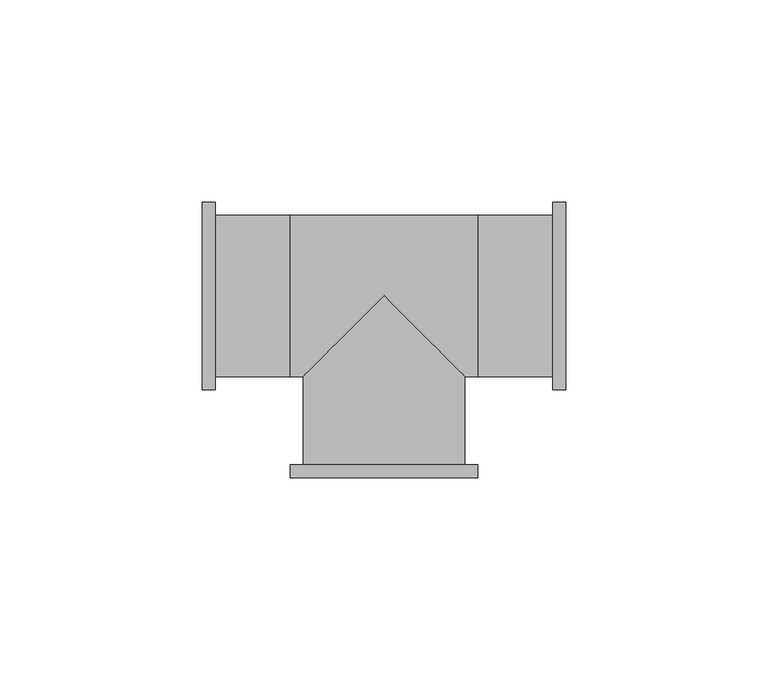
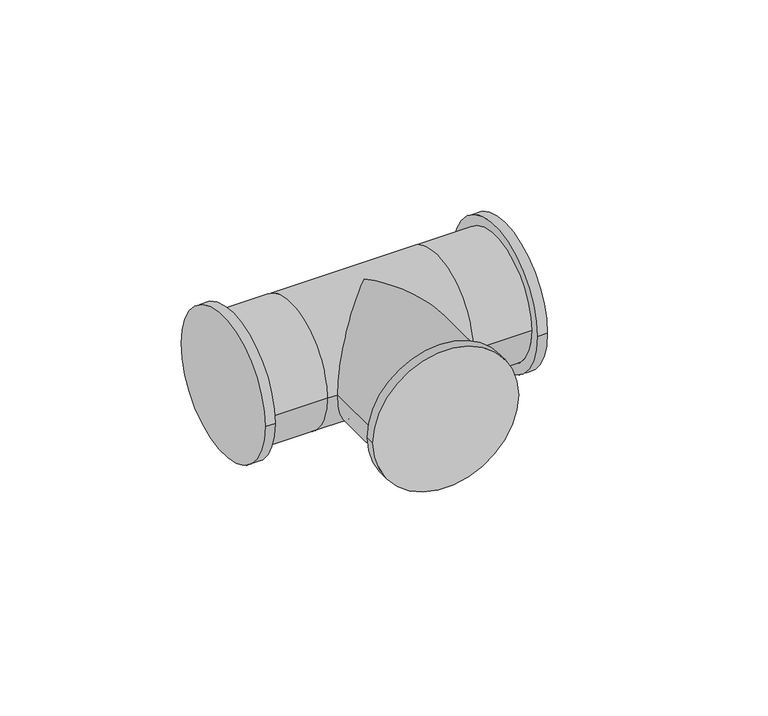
"""IFC4 building model written with IfcOpenShell, lengths in millimetres: pipe fitting geometry, ADSK_ДетальЧугуннаяРезьбовая_Тройник_ГОСТ8948-9-75 : Неоцинкованные."""

from ifc_helpers import new_model, si_unit, frame, origin, place, context, project, spatial, circle_curve, ellipse_curve, source, transform, mapped, element, save
from ifc_brep_helpers import plane_surface, cylinder_surface, advanced_brep


def pipe_fitting_9bba8be9(model_context):
    return source(origin(), model_context, "Body", "AdvancedBrep", [
        advanced_brep(
        [(-20.0, -20.0, 0.0), (-20.0, -41.8, 0.0), (20.0, -41.8, 0.0), (20.0, -20.0, 0.0), (0.0, 0.0, 20.0), (0.0, 0.0, -20.0), (23.2, 20.0, 0.0), (-23.2, 20.0, 0.0), (-23.2, -20.0, 0.0), (23.2, -20.0, 0.0), (-23.2, -41.8, 0.0), (23.2, -41.8, 0.0), (-23.2, -45.0, 0.0), (23.2, -45.0, 0.0), (-41.8, 20.0, 0.0), (-41.8, -20.0, 0.0), (41.8, 20.0, 0.0), (41.8, -20.0, 0.0), (-45.0, -23.2, 0.0), (-45.0, 23.2, 0.0), (-41.8, -23.2, 0.0), (-41.8, 23.2, 0.0), (41.8, -23.2, 0.0), (41.8, 23.2, 0.0), (45.0, -23.2, 0.0), (45.0, 23.2, 0.0)],
        [
            (0, 1),
            (1, 2, circle_curve(frame((0.0, -41.8, 0.0), z_axis=(0.0, 1.0, 0.0), x_axis=(1.0, 0.0, 0.0)), 20.0)),
            (2, 3),
            (3, 4, ellipse_curve(frame((0.0, 0.0, 0.0), z_axis=(-0.7071067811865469, -0.707106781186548, 0.0), x_axis=(-0.7071067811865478, 0.707106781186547, 0.0)), 28.2842712, 20.0)),
            (4, 0, ellipse_curve(frame((0.0, 0.0, 0.0), z_axis=(0.707106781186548, -0.7071067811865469, 0.0), x_axis=(0.7071067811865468, 0.7071067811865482, 0.0)), 28.2842712, 20.0)),
            (0, 5, ellipse_curve(frame((0.0, 0.0, 0.0), z_axis=(0.707106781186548, -0.7071067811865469, 0.0), x_axis=(0.7071067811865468, 0.7071067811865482, 0.0)), 28.2842712, 20.0)),
            (5, 3, ellipse_curve(frame((0.0, 0.0, 0.0), z_axis=(-0.7071067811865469, -0.707106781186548, 0.0), x_axis=(-0.7071067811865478, 0.707106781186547, 0.0)), 28.2842712, 20.0)),
            (2, 1, circle_curve(frame((0.0, -41.8, 0.0), z_axis=(0.0, 1.0, 0.0), x_axis=(1.0, 0.0, 0.0)), 20.0)),
            (6, 7),
            (7, 8, circle_curve(frame((-23.2, 0.0, 0.0), z_axis=(1.0, 0.0, 0.0), x_axis=(0.0, 1.0, 0.0)), 20.0)),
            (8, 0),
            (3, 9),
            (9, 6, circle_curve(frame((23.2, 0.0, 0.0), z_axis=(-1.0, 0.0, 0.0), x_axis=(0.0, 1.0, 0.0)), 20.0)),
            (6, 9, circle_curve(frame((23.2, 0.0, 0.0), z_axis=(-1.0, 0.0, 0.0), x_axis=(0.0, 1.0, 0.0)), 20.0)),
            (8, 7, circle_curve(frame((-23.2, 0.0, 0.0), z_axis=(1.0, 0.0, 0.0), x_axis=(0.0, 1.0, 0.0)), 20.0)),
            (10, 11, circle_curve(frame((0.0, -41.8, 0.0), z_axis=(0.0, 1.0, 0.0), x_axis=(1.0, 0.0, 0.0)), 23.2)),
            (11, 10, circle_curve(frame((0.0, -41.8, 0.0), z_axis=(0.0, 1.0, 0.0), x_axis=(1.0, 0.0, 0.0)), 23.2)),
            (12, 13, circle_curve(frame((0.0, -45.0, 0.0), z_axis=(0.0, -1.0, 0.0), x_axis=(1.0, 0.0, 0.0)), 23.2)),
            (13, 12, circle_curve(frame((0.0, -45.0, 0.0), z_axis=(0.0, -1.0, 0.0), x_axis=(1.0, 0.0, 0.0)), 23.2)),
            (10, 12),
            (13, 11),
            (14, 7),
            (8, 15),
            (15, 14, circle_curve(frame((-41.8, 0.0, 0.0), z_axis=(1.0, 0.0, 0.0), x_axis=(0.0, 1.0, 0.0)), 20.0)),
            (14, 15, circle_curve(frame((-41.8, 0.0, 0.0), z_axis=(1.0, 0.0, 0.0), x_axis=(0.0, 1.0, 0.0)), 20.0)),
            (6, 16),
            (16, 17, circle_curve(frame((41.8, 0.0, 0.0), z_axis=(-1.0, 0.0, 0.0), x_axis=(0.0, 1.0, 0.0)), 20.0)),
            (17, 9),
            (17, 16, circle_curve(frame((41.8, 0.0, 0.0), z_axis=(-1.0, 0.0, 0.0), x_axis=(0.0, 1.0, 0.0)), 20.0)),
            (18, 19, circle_curve(frame((-45.0, 0.0, 0.0), z_axis=(-1.0, 0.0, 0.0), x_axis=(0.0, 1.0, 0.0)), 23.2)),
            (19, 18, circle_curve(frame((-45.0, 0.0, 0.0), z_axis=(-1.0, 0.0, 0.0), x_axis=(0.0, 1.0, 0.0)), 23.2)),
            (20, 21, circle_curve(frame((-41.8, 0.0, 0.0), z_axis=(1.0, 0.0, 0.0), x_axis=(0.0, 1.0, 0.0)), 23.2)),
            (21, 20, circle_curve(frame((-41.8, 0.0, 0.0), z_axis=(1.0, 0.0, 0.0), x_axis=(0.0, 1.0, 0.0)), 23.2)),
            (18, 20),
            (21, 19),
            (22, 23, circle_curve(frame((41.8, 0.0, 0.0), z_axis=(-1.0, 0.0, 0.0), x_axis=(0.0, 1.0, 0.0)), 23.2)),
            (23, 22, circle_curve(frame((41.8, 0.0, 0.0), z_axis=(-1.0, 0.0, 0.0), x_axis=(0.0, 1.0, 0.0)), 23.2)),
            (24, 25, circle_curve(frame((45.0, 0.0, 0.0), z_axis=(1.0, 0.0, 0.0), x_axis=(0.0, 1.0, 0.0)), 23.2)),
            (25, 24, circle_curve(frame((45.0, 0.0, 0.0), z_axis=(1.0, 0.0, 0.0), x_axis=(0.0, 1.0, 0.0)), 23.2)),
            (22, 24),
            (25, 23),
        ],
        [
            cylinder_surface(frame((0.0, 0.0, 0.0), z_axis=(0.0, 1.0, 0.0), x_axis=(1.0, 0.0, 0.0)), 20.0),
            cylinder_surface(frame((-23.2, 0.0, 0.0), z_axis=(-1.0, 0.0, 0.0), x_axis=(0.0, 1.0, 0.0)), 20.0),
            plane_surface(frame((0.0, -41.8, 0.0), z_axis=(0.0, 1.0, 0.0), x_axis=(0.0, 0.0, 1.0))),
            plane_surface(frame((0.0, -45.0, 0.0), z_axis=(0.0, -1.0, 0.0), x_axis=(0.0, 0.0, 1.0))),
            cylinder_surface(frame((0.0, -41.8, 0.0), z_axis=(0.0, 1.0, 0.0), x_axis=(1.0, 0.0, 0.0)), 23.2),
            cylinder_surface(frame((1541.0, 0.0, 0.0), z_axis=(-1.0, 0.0, 0.0), x_axis=(0.0, 1.0, 0.0)), 20.0),
            plane_surface(frame((-45.0, 0.0, 0.0), z_axis=(-1.0, 0.0, 0.0), x_axis=(0.0, 0.0, 1.0))),
            plane_surface(frame((-41.8, 0.0, 0.0), z_axis=(1.0, 0.0, 0.0), x_axis=(0.0, 0.0, 1.0))),
            cylinder_surface(frame((-45.0, 0.0, 0.0), z_axis=(-1.0, 0.0, 0.0), x_axis=(0.0, 1.0, 0.0)), 23.2),
            plane_surface(frame((41.8, 0.0, 0.0), z_axis=(-1.0, 0.0, 0.0), x_axis=(0.0, 0.0, 1.0))),
            plane_surface(frame((45.0, 0.0, 0.0), z_axis=(1.0, 0.0, 0.0), x_axis=(0.0, 0.0, 1.0))),
            cylinder_surface(frame((41.8, 0.0, 0.0), z_axis=(-1.0, 0.0, 0.0), x_axis=(0.0, 1.0, 0.0)), 23.2),
        ],
        [
            (0, [[1, 2, 3, 4, 5]]),
            (0, [[-1, 6, 7, -3, 8]]),
            (1, [[9, 10, 11, -5, -4, 12, 13]]),
            (1, [[-9, 14, -12, -7, -6, -11, 15]]),
            (2, [[16, 17], [-2, -8]]),
            (3, [[18, 19]]),
            (4, [[-16, 20, -19, 21]]),
            (4, [[-17, -21, -18, -20]]),
            (5, [[22, -15, 23, 24]]),
            (5, [[-22, 25, -23, -10]]),
            (5, [[26, 27, 28, -14]]),
            (5, [[-26, -13, -28, 29]]),
            (6, [[30, 31]]),
            (7, [[32, 33], [-24, -25]]),
            (8, [[-30, 34, -33, 35]]),
            (8, [[-31, -35, -32, -34]]),
            (9, [[36, 37], [-27, -29]]),
            (10, [[38, 39]]),
            (11, [[-36, 40, -39, 41]]),
            (11, [[-37, -41, -38, -40]]),
        ],
    ),
    ])


if __name__ == "__main__":
    model = new_model("IFC4")
    model_context = context("Model", 3, world=origin())
    ifc_project = project(units=[si_unit("LENGTHUNIT", "METRE", prefix="MILLI")], contexts=[model_context])
    site = spatial("IfcSite", under=ifc_project)
    building = spatial("IfcBuilding", under=site)
    placement = place(None, origin())
    pipe_fitting_shape = pipe_fitting_9bba8be9(model_context)
    element("IfcPipeFitting", 1, ObjectType="ADSK_ДетальЧугуннаяРезьбовая_Тройник_ГОСТ8948-9-75 : Неоцинкованные", at=placement, inside=building, context=model_context, shape_type="MappedRepresentation", body=[
        mapped(pipe_fitting_shape, transform((0.0, 0.0, 0.0), x_axis=(1.0, 0.0, 0.0), y_axis=(0.0, 1.0, 0.0), z_axis=(0.0, 0.0, 1.0))),
    ])
    save(model, "model.ifc")
